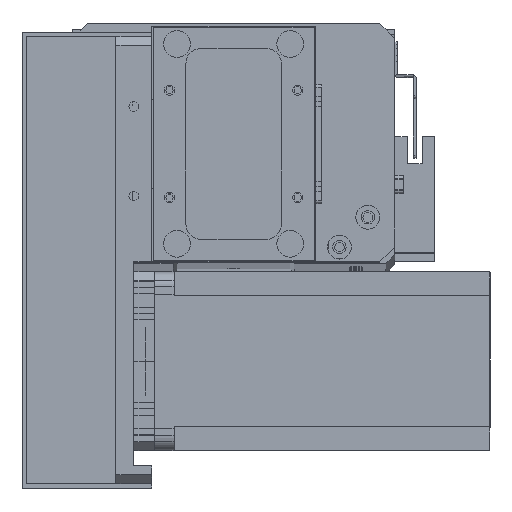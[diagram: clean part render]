
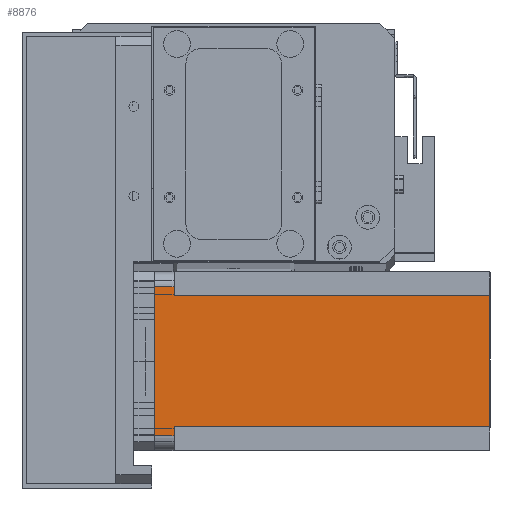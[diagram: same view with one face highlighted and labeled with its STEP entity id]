
A CAD part, top view. The second image highlights one B-rep face of the part: STEP entity #8876.
In plain terms, the highlighted planar face has unit normal (0, 0, 1) as drawn and (0, 1, 0) by its records, which use the part's own axes.
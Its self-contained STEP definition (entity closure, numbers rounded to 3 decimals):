
#199 = CARTESIAN_POINT ( 'NONE',  ( 8., 60., -6.5 ) ) ;
#964 = VERTEX_POINT ( 'NONE', #32107 ) ;
#1218 = ORIENTED_EDGE ( 'NONE', *, *, #11048, .T. ) ;
#1240 = DIRECTION ( 'NONE',  ( 0., 0., -1. ) ) ;
#1339 = LINE ( 'NONE', #30418, #7928 ) ;
#2607 = ORIENTED_EDGE ( 'NONE', *, *, #24271, .T. ) ;
#2720 = AXIS2_PLACEMENT_3D ( 'NONE', #20740, #5717, #23273 ) ;
#2764 = CARTESIAN_POINT ( 'NONE',  ( 52., 60., -112.5 ) ) ;
#3782 = EDGE_CURVE ( 'NONE', #21157, #964, #21527, .T. ) ;
#4284 = DIRECTION ( 'NONE',  ( -1., 0., 0. ) ) ;
#4990 = EDGE_CURVE ( 'NONE', #26526, #25207, #28538, .T. ) ;
#5029 = PLANE ( 'NONE',  #2720 ) ;
#5717 = DIRECTION ( 'NONE',  ( 0., 1., 0. ) ) ;
#6352 = CARTESIAN_POINT ( 'NONE',  ( 8., 60., -112.5 ) ) ;
#7491 = CARTESIAN_POINT ( 'NONE',  ( 52., 60., -6.5 ) ) ;
#7668 = ORIENTED_EDGE ( 'NONE', *, *, #3782, .T. ) ;
#7870 = VECTOR ( 'NONE', #23907, 1000. ) ;
#7928 = VECTOR ( 'NONE', #12857, 1000. ) ;
#8598 = ORIENTED_EDGE ( 'NONE', *, *, #26509, .F. ) ;
#8876 = ADVANCED_FACE ( 'NONE', ( #25576 ), #5029, .T. ) ;
#9509 = CARTESIAN_POINT ( 'NONE',  ( 52., 60., -6.5 ) ) ;
#9835 = DIRECTION ( 'NONE',  ( -1., 0., 0. ) ) ;
#10451 = CARTESIAN_POINT ( 'NONE',  ( 5., 60., 0. ) ) ;
#10886 = CARTESIAN_POINT ( 'NONE',  ( 8., 60., -6.5 ) ) ;
#11048 = EDGE_CURVE ( 'NONE', #11803, #25207, #25380, .T. ) ;
#11803 = VERTEX_POINT ( 'NONE', #15395 ) ;
#11894 = DIRECTION ( 'NONE',  ( 0., 0., 1. ) ) ;
#12035 = DIRECTION ( 'NONE',  ( 1., 0., 0. ) ) ;
#12857 = DIRECTION ( 'NONE',  ( 0., 0., 1. ) ) ;
#14287 = EDGE_CURVE ( 'NONE', #11803, #32035, #16182, .T. ) ;
#14856 = EDGE_CURVE ( 'NONE', #21157, #29084, #30278, .T. ) ;
#14861 = CARTESIAN_POINT ( 'NONE',  ( 0., 60., -112.5 ) ) ;
#15395 = CARTESIAN_POINT ( 'NONE',  ( 55., 60., 0. ) ) ;
#15603 = LINE ( 'NONE', #21984, #20726 ) ;
#15916 = LINE ( 'NONE', #14861, #21820 ) ;
#15922 = VECTOR ( 'NONE', #12035, 1000. ) ;
#16182 = LINE ( 'NONE', #19308, #23664 ) ;
#16331 = CARTESIAN_POINT ( 'NONE',  ( 55., 60., -6.5 ) ) ;
#16353 = VERTEX_POINT ( 'NONE', #2764 ) ;
#16691 = ORIENTED_EDGE ( 'NONE', *, *, #4990, .F. ) ;
#17975 = ORIENTED_EDGE ( 'NONE', *, *, #14287, .F. ) ;
#18728 = CARTESIAN_POINT ( 'NONE',  ( 55., 60., -112.5 ) ) ;
#19308 = CARTESIAN_POINT ( 'NONE',  ( 0., 60., 0. ) ) ;
#20002 = ORIENTED_EDGE ( 'NONE', *, *, #27708, .T. ) ;
#20726 = VECTOR ( 'NONE', #11894, 1000. ) ;
#20740 = CARTESIAN_POINT ( 'NONE',  ( 0., 60., -112.5 ) ) ;
#21157 = VERTEX_POINT ( 'NONE', #199 ) ;
#21527 = LINE ( 'NONE', #10886, #29008 ) ;
#21600 = CARTESIAN_POINT ( 'NONE',  ( 8., 60., -112.5 ) ) ;
#21820 = VECTOR ( 'NONE', #9835, 1000. ) ;
#21984 = CARTESIAN_POINT ( 'NONE',  ( 52., 60., -112.5 ) ) ;
#23273 = DIRECTION ( 'NONE',  ( 0., 0., 1. ) ) ;
#23664 = VECTOR ( 'NONE', #4284, 1000. ) ;
#23907 = DIRECTION ( 'NONE',  ( 0., 0., -1. ) ) ;
#24271 = EDGE_CURVE ( 'NONE', #964, #32035, #1339, .T. ) ;
#25207 = VERTEX_POINT ( 'NONE', #16331 ) ;
#25380 = LINE ( 'NONE', #18728, #31255 ) ;
#25576 = FACE_OUTER_BOUND ( 'NONE', #31501, .T. ) ;
#26192 = ORIENTED_EDGE ( 'NONE', *, *, #14856, .F. ) ;
#26509 = EDGE_CURVE ( 'NONE', #16353, #26526, #15603, .T. ) ;
#26526 = VERTEX_POINT ( 'NONE', #7491 ) ;
#27708 = EDGE_CURVE ( 'NONE', #16353, #29084, #15916, .T. ) ;
#28485 = DIRECTION ( 'NONE',  ( -1., 0., 0. ) ) ;
#28538 = LINE ( 'NONE', #9509, #15922 ) ;
#29008 = VECTOR ( 'NONE', #28485, 1000. ) ;
#29084 = VERTEX_POINT ( 'NONE', #21600 ) ;
#30278 = LINE ( 'NONE', #6352, #7870 ) ;
#30418 = CARTESIAN_POINT ( 'NONE',  ( 5., 60., -112.5 ) ) ;
#31255 = VECTOR ( 'NONE', #1240, 1000. ) ;
#31501 = EDGE_LOOP ( 'NONE', ( #17975, #1218, #16691, #8598, #20002, #26192, #7668, #2607 ) ) ;
#32035 = VERTEX_POINT ( 'NONE', #10451 ) ;
#32107 = CARTESIAN_POINT ( 'NONE',  ( 5., 60., -6.5 ) ) ;
